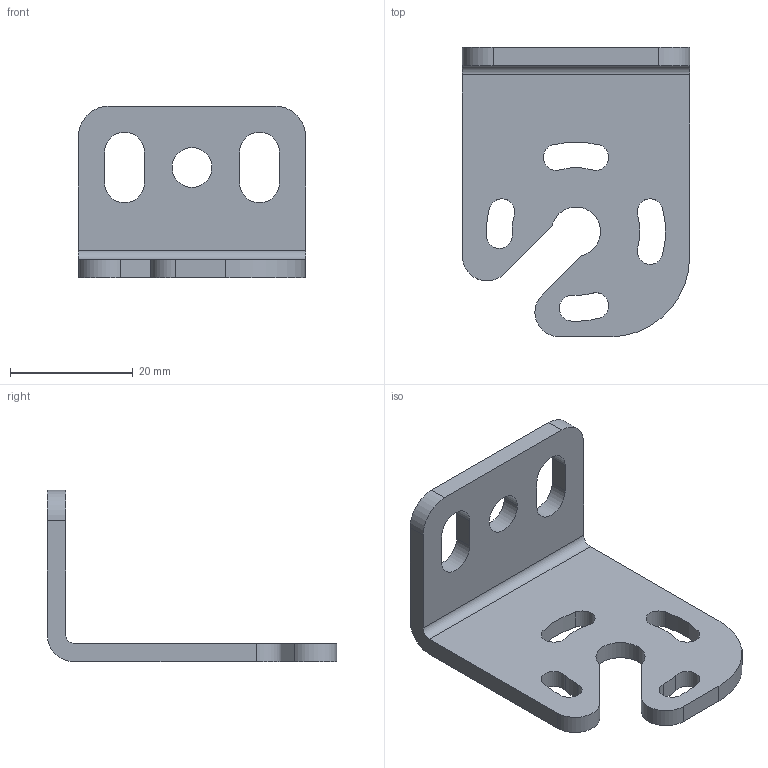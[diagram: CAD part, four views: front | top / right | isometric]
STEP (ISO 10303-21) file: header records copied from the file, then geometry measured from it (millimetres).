
FILE_DESCRIPTION((''),'2;1');
FILE_NAME('ANZHUANGZHIJIA','2026-04-01T15:53:23',('Administrator'),(''),'CREO PARAMETRIC BY PTC INC, 2016510','CREO PARAMETRIC BY PTC INC, 2016510','');
FILE_SCHEMA(('AUTOMOTIVE_DESIGN { 1 0 10303 214 1 1 1 1 }'));
Length unit declared in the file: millimetre
Products named in the file (1): ANZHUANGZHIJIA
Bounding box: 37 x 47.16 x 28 mm (x, y, z)
Volume: 6126.1 mm3; surface area: 5310.5 mm2
Topology: 1 solids, 1 shells, 46 faces, 132 edges, 88 vertices
Faces by surface type: cylinder 32, plane 14
Entity records: 2021 total; most frequent: DIRECTION 288, CARTESIAN_POINT 268, ORIENTED_EDGE 264, PRESENTATION_STYLE_ASSIGNMENT 133, STYLED_ITEM 133, CURVE_STYLE 132, EDGE_CURVE 132, AXIS2_PLACEMENT_3D 110
